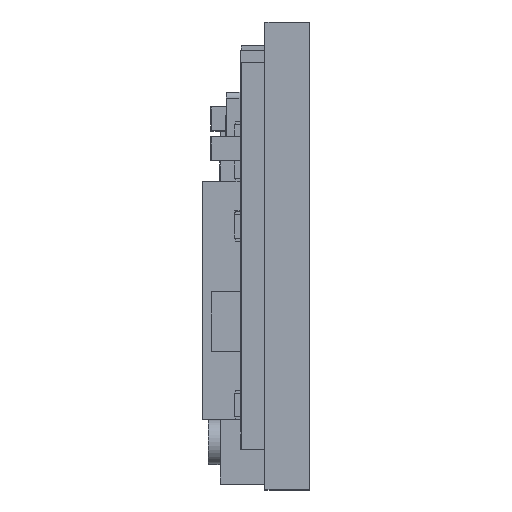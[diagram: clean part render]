
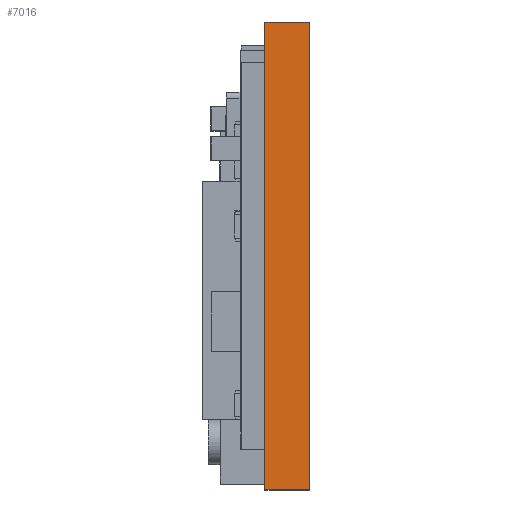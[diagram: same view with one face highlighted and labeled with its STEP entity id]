
A CAD part, left-side view. The second image highlights one B-rep face of the part: STEP entity #7016.
In plain terms, the highlighted planar face has unit normal (-1, 0, 0).
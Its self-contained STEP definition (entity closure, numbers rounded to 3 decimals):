
#571 = EDGE_CURVE ( 'NONE', #54760, #87389, #12078, .T. ) ;
#1725 = EDGE_CURVE ( 'NONE', #54760, #37745, #8199, .T. ) ;
#2707 = DIRECTION ( 'NONE',  ( 0., -1., 0. ) ) ;
#3852 = LINE ( 'NONE', #102091, #64176 ) ;
#4151 = CARTESIAN_POINT ( 'NONE',  ( -18.5, 1.5, -7.85 ) ) ;
#5433 = LINE ( 'NONE', #53915, #46055 ) ;
#6269 = LINE ( 'NONE', #31352, #107874 ) ;
#7016 = ADVANCED_FACE ( 'NONE', ( #51065 ), #58692, .F. ) ;
#8199 = LINE ( 'NONE', #8728, #91070 ) ;
#8728 = CARTESIAN_POINT ( 'NONE',  ( -18.5, 1.5, -7.85 ) ) ;
#9915 = DIRECTION ( 'NONE',  ( 0., 0., 1. ) ) ;
#12078 = LINE ( 'NONE', #29035, #48727 ) ;
#16990 = EDGE_CURVE ( 'NONE', #48541, #24705, #6269, .T. ) ;
#18605 = VECTOR ( 'NONE', #34113, 1000. ) ;
#20902 = CARTESIAN_POINT ( 'NONE',  ( -18.5, 1.5, 7.85 ) ) ;
#23589 = ORIENTED_EDGE ( 'NONE', *, *, #65078, .F. ) ;
#24569 = CARTESIAN_POINT ( 'NONE',  ( -18.5, 1.5, 6.7 ) ) ;
#24705 = VERTEX_POINT ( 'NONE', #98718 ) ;
#25931 = LINE ( 'NONE', #75467, #18605 ) ;
#29035 = CARTESIAN_POINT ( 'NONE',  ( -18.5, 1.5, -7.85 ) ) ;
#31352 = CARTESIAN_POINT ( 'NONE',  ( -18.5, 1.51, -6.6 ) ) ;
#31426 = EDGE_CURVE ( 'NONE', #48541, #37745, #96417, .T. ) ;
#33109 = ORIENTED_EDGE ( 'NONE', *, *, #571, .T. ) ;
#34113 = DIRECTION ( 'NONE',  ( 0., -1., 0. ) ) ;
#36937 = EDGE_CURVE ( 'NONE', #52562, #65152, #95592, .T. ) ;
#37745 = VERTEX_POINT ( 'NONE', #96152 ) ;
#39387 = CARTESIAN_POINT ( 'NONE',  ( -18.5, 1.5, -7.85 ) ) ;
#42750 = ORIENTED_EDGE ( 'NONE', *, *, #82014, .T. ) ;
#46055 = VECTOR ( 'NONE', #54466, 1000. ) ;
#48287 = EDGE_CURVE ( 'NONE', #24705, #78077, #25931, .T. ) ;
#48541 = VERTEX_POINT ( 'NONE', #96141 ) ;
#48727 = VECTOR ( 'NONE', #78581, 1000. ) ;
#50580 = CARTESIAN_POINT ( 'NONE',  ( -18.5, 1.5, 7.85 ) ) ;
#51065 = FACE_OUTER_BOUND ( 'NONE', #91583, .T. ) ;
#52562 = VERTEX_POINT ( 'NONE', #50580 ) ;
#53915 = CARTESIAN_POINT ( 'NONE',  ( -18.5, 0., -7.85 ) ) ;
#54125 = DIRECTION ( 'NONE',  ( 0., -1., 0. ) ) ;
#54466 = DIRECTION ( 'NONE',  ( 0., 0., 1. ) ) ;
#54760 = VERTEX_POINT ( 'NONE', #39387 ) ;
#54801 = CARTESIAN_POINT ( 'NONE',  ( -18.5, 0., -7.85 ) ) ;
#58692 = PLANE ( 'NONE',  #99888 ) ;
#64176 = VECTOR ( 'NONE', #9915, 1000. ) ;
#65078 = EDGE_CURVE ( 'NONE', #78077, #52562, #3852, .T. ) ;
#65152 = VERTEX_POINT ( 'NONE', #96547 ) ;
#66316 = ORIENTED_EDGE ( 'NONE', *, *, #31426, .T. ) ;
#69694 = VECTOR ( 'NONE', #2707, 1000. ) ;
#75467 = CARTESIAN_POINT ( 'NONE',  ( -18.5, 1.51, 6.7 ) ) ;
#78077 = VERTEX_POINT ( 'NONE', #24569 ) ;
#78173 = ORIENTED_EDGE ( 'NONE', *, *, #48287, .F. ) ;
#78581 = DIRECTION ( 'NONE',  ( 0., -1., 0. ) ) ;
#78843 = DIRECTION ( 'NONE',  ( 0., 0., -1. ) ) ;
#81683 = ORIENTED_EDGE ( 'NONE', *, *, #36937, .F. ) ;
#82014 = EDGE_CURVE ( 'NONE', #87389, #65152, #5433, .T. ) ;
#84735 = VECTOR ( 'NONE', #54125, 1000. ) ;
#87389 = VERTEX_POINT ( 'NONE', #54801 ) ;
#90138 = DIRECTION ( 'NONE',  ( 0., 0., 1. ) ) ;
#91070 = VECTOR ( 'NONE', #98742, 1000. ) ;
#91409 = ORIENTED_EDGE ( 'NONE', *, *, #16990, .F. ) ;
#91583 = EDGE_LOOP ( 'NONE', ( #42750, #81683, #23589, #78173, #91409, #66316, #103385, #33109 ) ) ;
#95592 = LINE ( 'NONE', #20902, #84735 ) ;
#96141 = CARTESIAN_POINT ( 'NONE',  ( -18.5, 1.51, -6.7 ) ) ;
#96152 = CARTESIAN_POINT ( 'NONE',  ( -18.5, 1.5, -6.7 ) ) ;
#96417 = LINE ( 'NONE', #103008, #69694 ) ;
#96547 = CARTESIAN_POINT ( 'NONE',  ( -18.5, 0., 7.85 ) ) ;
#98718 = CARTESIAN_POINT ( 'NONE',  ( -18.5, 1.51, 6.7 ) ) ;
#98742 = DIRECTION ( 'NONE',  ( 0., 0., 1. ) ) ;
#99888 = AXIS2_PLACEMENT_3D ( 'NONE', #4151, #103418, #78843 ) ;
#102091 = CARTESIAN_POINT ( 'NONE',  ( -18.5, 1.5, -7.85 ) ) ;
#103008 = CARTESIAN_POINT ( 'NONE',  ( -18.5, 1.51, -6.7 ) ) ;
#103385 = ORIENTED_EDGE ( 'NONE', *, *, #1725, .F. ) ;
#103418 = DIRECTION ( 'NONE',  ( 1., 0., 0. ) ) ;
#107874 = VECTOR ( 'NONE', #90138, 1000. ) ;
